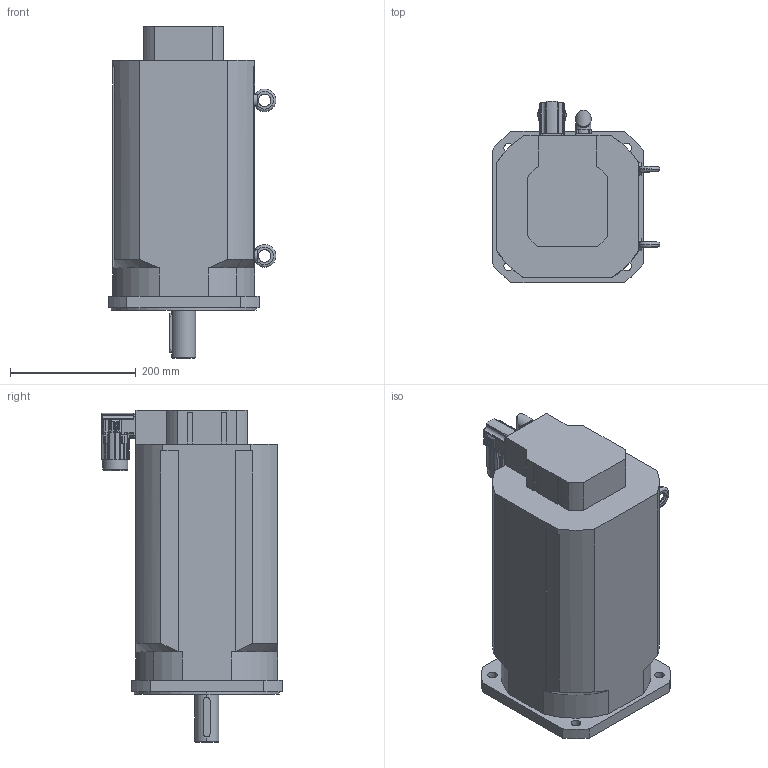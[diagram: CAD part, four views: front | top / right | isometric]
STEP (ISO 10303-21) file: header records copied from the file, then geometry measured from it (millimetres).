
FILE_DESCRIPTION(('STEP AP203'),'2;1');
FILE_NAME('MT8-0680_B.stp','2006-08-28T20:32:15',(''),(''),'2005.2.102','THINKDESIGN','');
FILE_SCHEMA(('CONFIG_CONTROL_DESIGN'));
Length unit declared in the file: millimetre
Bounding box: 266.5 x 287.18 x 527 mm (x, y, z)
Volume: 19942403.9 mm3; surface area: 520916.6 mm2
Topology: 5 solids, 5 shells, 534 faces, 1442 edges, 929 vertices
Faces by surface type: cylinder 259, plane 194, bspline 81
Full cylindrical faces by diameter (mm): 20 x1, 23 x1, 29 x1, 37.8 x1, 40 x1
Entity records: 19287 total; most frequent: CARTESIAN_POINT 5926, ORIENTED_EDGE 2872, DIRECTION 2774, EDGE_CURVE 1436, AXIS2_PLACEMENT_3D 1055, VERTEX_POINT 929, VECTOR 664, LINE 664
